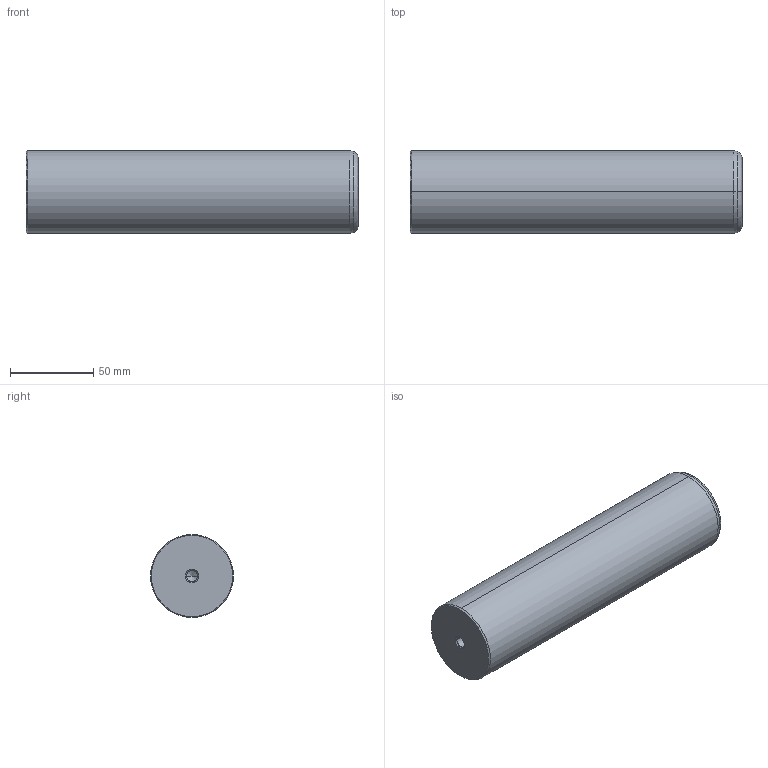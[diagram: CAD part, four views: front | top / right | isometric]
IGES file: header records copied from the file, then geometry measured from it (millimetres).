
Start section: START RECORD GO HERE.
Global section: file name: 720-50x200.igs; native system: DASSAULT SYSTEMES CATIA V5 R20 - www.3ds.com; preprocessor: CATIA Version 5 Release 20 ; author: Utente; organization: NB04-ASUS; date: 20201230.224349; units: millimetre
Bounding box: 200 x 50 x 50 mm (x, y, z)
Surface area: 35935.6 mm2 (no closed solid volume)
Topology: 0 solids, 0 shells, 22 faces, 108 edges, 104 vertices
Faces by surface type: revolution 20, plane 2
